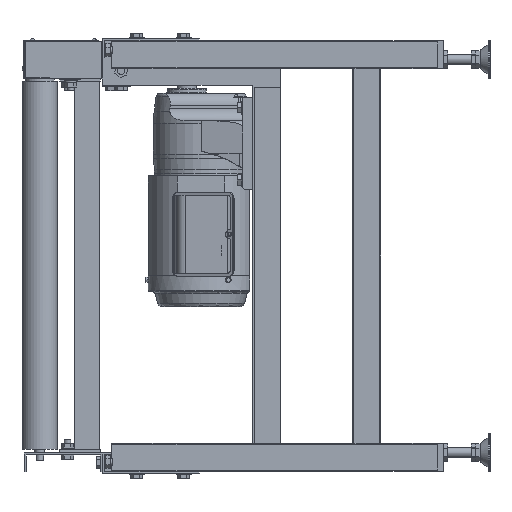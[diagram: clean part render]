
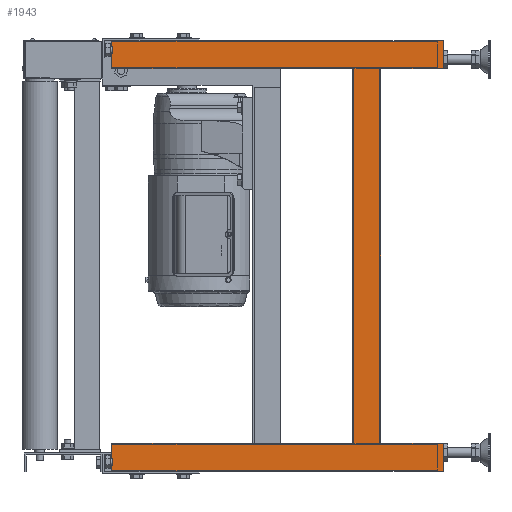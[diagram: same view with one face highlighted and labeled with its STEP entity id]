
A CAD part, left-side view. The second image highlights one B-rep face of the part: STEP entity #1943.
In plain terms, the highlighted planar face has unit normal (-1, 0, 0).
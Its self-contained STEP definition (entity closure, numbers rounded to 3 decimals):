
#1943=ADVANCED_FACE('',(#16621),#16620,.T.);
#16620=PLANE('',#28631);
#16621=FACE_OUTER_BOUND('',#28632,.T.);
#28628=CARTESIAN_POINT('',(112.5,-685.,-340.));
#28629=DIRECTION('',(-1.,0.,0.));
#28630=DIRECTION('',(0.,0.,1.));
#28631=AXIS2_PLACEMENT_3D('',#28628,#28629,#28630);
#28632=EDGE_LOOP('',(#38708,#38709,#38710,#38711,#38712,#38713,#38714,#38715,#38716,#38717,#38718,#38719,#38720,#38721,#38722,#38723,#38724,#38725));
#38708=ORIENTED_EDGE('',*,*,#44716,.T.);
#38709=ORIENTED_EDGE('',*,*,#44717,.T.);
#38710=ORIENTED_EDGE('',*,*,#44718,.T.);
#38711=ORIENTED_EDGE('',*,*,#44719,.T.);
#38712=ORIENTED_EDGE('',*,*,#44720,.F.);
#38713=ORIENTED_EDGE('',*,*,#44700,.F.);
#38714=ORIENTED_EDGE('',*,*,#44400,.F.);
#38715=ORIENTED_EDGE('',*,*,#44505,.T.);
#38716=ORIENTED_EDGE('',*,*,#44524,.T.);
#38717=ORIENTED_EDGE('',*,*,#44574,.F.);
#38718=ORIENTED_EDGE('',*,*,#44634,.F.);
#38719=ORIENTED_EDGE('',*,*,#44571,.F.);
#38720=ORIENTED_EDGE('',*,*,#44513,.F.);
#38721=ORIENTED_EDGE('',*,*,#44507,.F.);
#38722=ORIENTED_EDGE('',*,*,#44514,.T.);
#38723=ORIENTED_EDGE('',*,*,#44403,.T.);
#38724=ORIENTED_EDGE('',*,*,#44388,.F.);
#38725=ORIENTED_EDGE('',*,*,#44714,.T.);
#44388=EDGE_CURVE('',#68154,#68161,#68162,.T.);
#44400=EDGE_CURVE('',#68237,#68244,#68245,.T.);
#44403=EDGE_CURVE('',#68263,#68161,#68264,.T.);
#44505=EDGE_CURVE('',#68237,#68935,#68942,.T.);
#44507=EDGE_CURVE('',#68949,#68956,#68957,.T.);
#44513=EDGE_CURVE('',#68956,#68984,#68997,.T.);
#44514=EDGE_CURVE('',#68949,#68263,#69003,.T.);
#44524=EDGE_CURVE('',#68935,#69061,#69068,.T.);
#44571=EDGE_CURVE('',#68984,#69386,#69387,.T.);
#44574=EDGE_CURVE('',#69400,#69061,#69407,.T.);
#44634=EDGE_CURVE('',#69386,#69400,#69798,.T.);
#44700=EDGE_CURVE('',#68244,#70228,#70229,.T.);
#44714=EDGE_CURVE('',#68154,#70316,#70323,.T.);
#44716=EDGE_CURVE('',#70316,#70336,#70337,.T.);
#44717=EDGE_CURVE('',#70336,#70343,#70344,.T.);
#44718=EDGE_CURVE('',#70343,#70350,#70351,.T.);
#44719=EDGE_CURVE('',#70350,#70357,#70358,.T.);
#44720=EDGE_CURVE('',#70228,#70357,#70364,.T.);
#68154=VERTEX_POINT('',#91688);
#68161=VERTEX_POINT('',#91692);
#68162=LINE('',#91693,#91694);
#68237=VERTEX_POINT('',#91735);
#68244=VERTEX_POINT('',#91739);
#68245=LINE('',#91740,#91741);
#68263=VERTEX_POINT('',#91749);
#68264=LINE('',#91750,#91751);
#68935=VERTEX_POINT('',#92127);
#68942=LINE('',#92131,#92132);
#68949=VERTEX_POINT('',#92135);
#68956=VERTEX_POINT('',#92139);
#68957=LINE('',#92140,#92141);
#68984=VERTEX_POINT('',#92156);
#68997=LINE('',#92163,#92164);
#69003=LINE('',#92166,#92167);
#69061=VERTEX_POINT('',#92197);
#69068=LINE('',#92201,#92202);
#69386=VERTEX_POINT('',#92392);
#69387=LINE('',#92393,#92394);
#69400=VERTEX_POINT('',#92401);
#69407=LINE('',#92406,#92407);
#69798=LINE('',#92628,#92629);
#70228=VERTEX_POINT('',#92866);
#70229=LINE('',#92867,#92868);
#70316=VERTEX_POINT('',#92918);
#70323=LINE('',#92922,#92923);
#70336=VERTEX_POINT('',#92930);
#70337=LINE('',#92931,#92932);
#70343=VERTEX_POINT('',#92934);
#70344=LINE('',#92935,#92936);
#70350=VERTEX_POINT('',#92938);
#70351=LINE('',#92939,#92940);
#70357=VERTEX_POINT('',#92942);
#70358=LINE('',#92943,#92944);
#70364=LINE('',#92946,#92947);
#91688=CARTESIAN_POINT('',(112.5,-675.,315.));
#91692=CARTESIAN_POINT('',(112.5,-575.,315.));
#91693=CARTESIAN_POINT('',(112.5,-675.,315.));
#91694=VECTOR('',#91695,100.);
#91695=DIRECTION('',(0.,1.,0.));
#91735=CARTESIAN_POINT('',(112.5,-530.,-285.));
#91739=CARTESIAN_POINT('',(112.5,-530.,315.));
#91740=CARTESIAN_POINT('',(112.5,-530.,-285.));
#91741=VECTOR('',#91742,600.);
#91742=DIRECTION('',(0.,0.,1.));
#91749=CARTESIAN_POINT('',(112.5,-575.,-285.));
#91750=CARTESIAN_POINT('',(112.5,-575.,-285.));
#91751=VECTOR('',#91752,600.);
#91752=DIRECTION('',(0.,0.,1.));
#92127=CARTESIAN_POINT('',(112.5,-144.,-285.));
#92131=CARTESIAN_POINT('',(112.5,-530.,-285.));
#92132=VECTOR('',#92133,386.);
#92133=DIRECTION('',(0.,1.,0.));
#92135=CARTESIAN_POINT('',(112.5,-675.,-285.));
#92139=CARTESIAN_POINT('',(112.5,-675.,-330.));
#92140=CARTESIAN_POINT('',(112.5,-675.,-285.));
#92141=VECTOR('',#92142,45.);
#92142=DIRECTION('',(0.,0.,-1.));
#92156=CARTESIAN_POINT('',(112.5,-284.,-330.));
#92163=CARTESIAN_POINT('',(112.5,-675.,-330.));
#92164=VECTOR('',#92165,391.);
#92165=DIRECTION('',(0.,1.,0.));
#92166=CARTESIAN_POINT('',(112.5,-675.,-285.));
#92167=VECTOR('',#92168,100.);
#92168=DIRECTION('',(0.,1.,0.));
#92197=CARTESIAN_POINT('',(112.5,-144.,-330.));
#92201=CARTESIAN_POINT('',(112.5,-144.,-285.));
#92202=VECTOR('',#92203,45.);
#92203=DIRECTION('',(0.,0.,-1.));
#92392=CARTESIAN_POINT('',(112.5,-199.548,-330.));
#92393=CARTESIAN_POINT('',(112.5,-284.,-330.));
#92394=VECTOR('',#92395,84.452);
#92395=DIRECTION('',(0.,1.,0.));
#92401=CARTESIAN_POINT('',(112.5,-187.768,-330.));
#92406=CARTESIAN_POINT('',(112.5,-187.768,-330.));
#92407=VECTOR('',#92408,43.768);
#92408=DIRECTION('',(0.,1.,0.));
#92628=CARTESIAN_POINT('',(112.5,-199.548,-330.));
#92629=VECTOR('',#92630,11.78);
#92630=DIRECTION('',(0.,1.,0.));
#92866=CARTESIAN_POINT('',(112.5,-144.,315.));
#92867=CARTESIAN_POINT('',(112.5,-530.,315.));
#92868=VECTOR('',#92869,386.);
#92869=DIRECTION('',(0.,1.,0.));
#92918=CARTESIAN_POINT('',(112.5,-675.,360.));
#92922=CARTESIAN_POINT('',(112.5,-675.,315.));
#92923=VECTOR('',#92924,45.);
#92924=DIRECTION('',(0.,0.,1.));
#92930=CARTESIAN_POINT('',(112.5,-284.,360.));
#92931=CARTESIAN_POINT('',(112.5,-675.,360.));
#92932=VECTOR('',#92933,391.);
#92933=DIRECTION('',(0.,1.,0.));
#92934=CARTESIAN_POINT('',(112.5,-199.548,360.));
#92935=CARTESIAN_POINT('',(112.5,-284.,360.));
#92936=VECTOR('',#92937,84.452);
#92937=DIRECTION('',(0.,1.,0.));
#92938=CARTESIAN_POINT('',(112.5,-187.768,360.));
#92939=CARTESIAN_POINT('',(112.5,-199.548,360.));
#92940=VECTOR('',#92941,11.78);
#92941=DIRECTION('',(0.,1.,0.));
#92942=CARTESIAN_POINT('',(112.5,-144.,360.));
#92943=CARTESIAN_POINT('',(112.5,-187.768,360.));
#92944=VECTOR('',#92945,43.768);
#92945=DIRECTION('',(0.,1.,0.));
#92946=CARTESIAN_POINT('',(112.5,-144.,315.));
#92947=VECTOR('',#92948,45.);
#92948=DIRECTION('',(0.,0.,1.));
